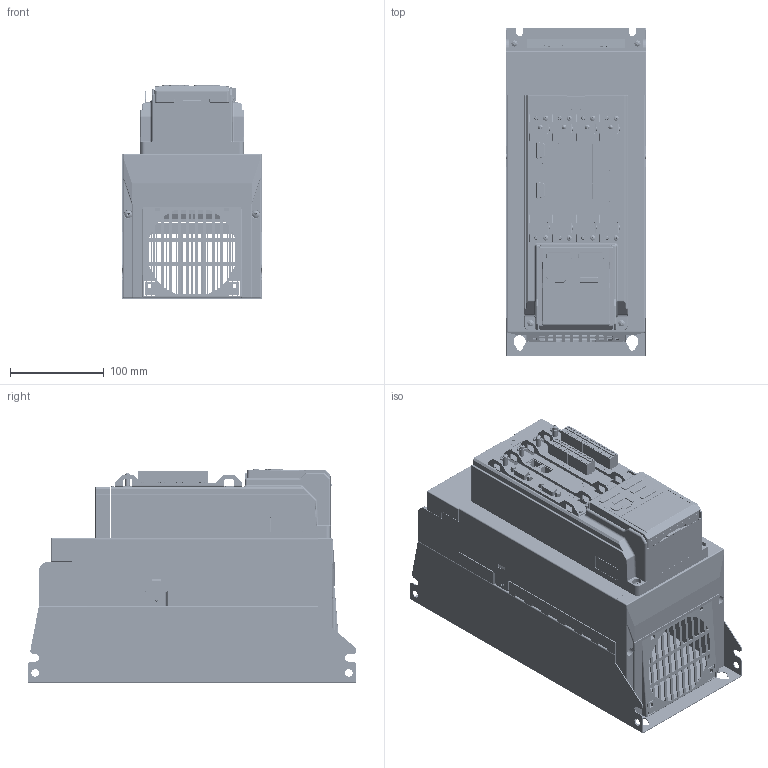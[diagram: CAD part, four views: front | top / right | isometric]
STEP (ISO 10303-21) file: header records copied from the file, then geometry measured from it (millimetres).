
FILE_DESCRIPTION((''),'2;1');
FILE_NAME('VH6-4011-B','2021-11-12T13:00:48',('PC'),(''),'CREO PARAMETRIC BY PTC INC, 2019010','CREO PARAMETRIC BY PTC INC, 2019010','');
FILE_SCHEMA(('CONFIG_CONTROL_DESIGN'));
Products named in the file (1): VH6-4011-B
Bounding box: 150 x 350 x 228.35 mm (x, y, z)
Surface area: 853641.6 mm2 (no closed solid volume)
Topology: 0 solids, 14442 shells, 14442 faces, 81934 edges, 81723 vertices
Faces by surface type: plane 4758, extrusion 3212, cylinder 3072, bspline 2674, torus 447, sphere 203, cone 76
Entity records: 930143 total; most frequent: CARTESIAN_POINT 377637, DIRECTION 84071, VERTEX_POINT 81717, ORIENTED_EDGE 81717, EDGE_CURVE 81717, VECTOR 44999, LINE 41787, B_SPLINE_CURVE_WITH_KNOTS 32162
